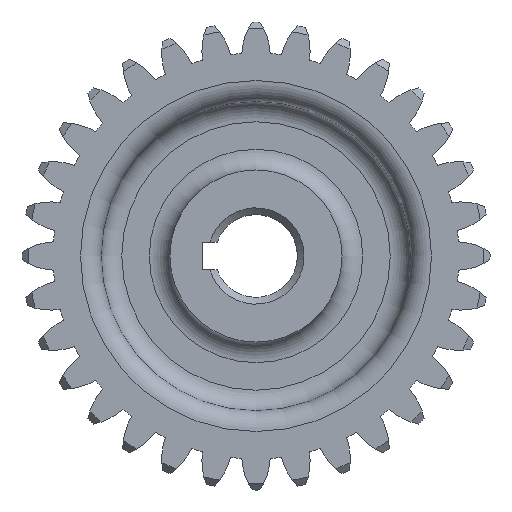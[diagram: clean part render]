
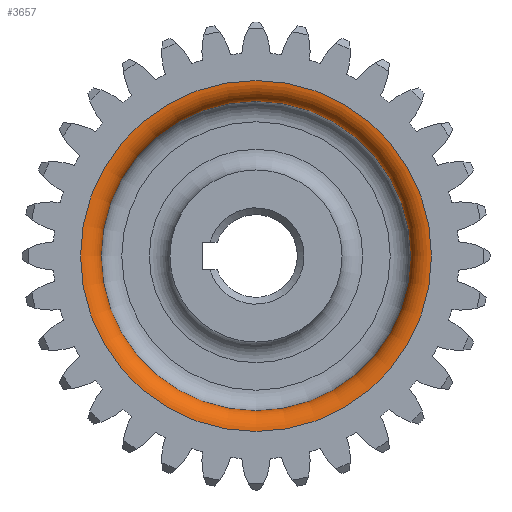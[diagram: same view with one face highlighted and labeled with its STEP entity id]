
A CAD part, left-side view. The second image highlights one B-rep face of the part: STEP entity #3657.
In plain terms, the highlighted toroidal (fillet/blend) face has major radius 25.5 mm and minor radius 3 mm.
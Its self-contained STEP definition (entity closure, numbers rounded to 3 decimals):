
#147=FACE_BOUND('',#804,.T.);
#159=TOROIDAL_SURFACE('',#3880,25.5,3.);
#587=FACE_OUTER_BOUND('',#803,.T.);
#803=EDGE_LOOP('',(#2397));
#804=EDGE_LOOP('',(#2398));
#1025=CIRCLE('',#3879,22.5);
#1026=CIRCLE('',#3881,25.5);
#1371=VERTEX_POINT('',#5695);
#1372=VERTEX_POINT('',#5698);
#1782=EDGE_CURVE('',#1371,#1371,#1025,.T.);
#1783=EDGE_CURVE('',#1372,#1372,#1026,.T.);
#2397=ORIENTED_EDGE('',*,*,#1782,.T.);
#2398=ORIENTED_EDGE('',*,*,#1783,.T.);
#3657=ADVANCED_FACE('',(#587,#147),#159,.T.);
#3879=AXIS2_PLACEMENT_3D('',#5696,#4450,#4451);
#3880=AXIS2_PLACEMENT_3D('',#5697,#4452,#4453);
#3881=AXIS2_PLACEMENT_3D('',#5699,#4454,#4455);
#4450=DIRECTION('center_axis',(1.,0.,0.));
#4451=DIRECTION('ref_axis',(0.,-1.,0.));
#4452=DIRECTION('center_axis',(1.,0.,0.));
#4453=DIRECTION('ref_axis',(0.,0.,-1.));
#4454=DIRECTION('center_axis',(-1.,0.,0.));
#4455=DIRECTION('ref_axis',(0.,-1.,0.));
#5695=CARTESIAN_POINT('',(-6.,22.5,0.));
#5696=CARTESIAN_POINT('Origin',(-6.,0.,0.));
#5697=CARTESIAN_POINT('Origin',(-6.,0.,0.));
#5698=CARTESIAN_POINT('',(-9.,25.5,0.));
#5699=CARTESIAN_POINT('Origin',(-9.,0.,0.));
